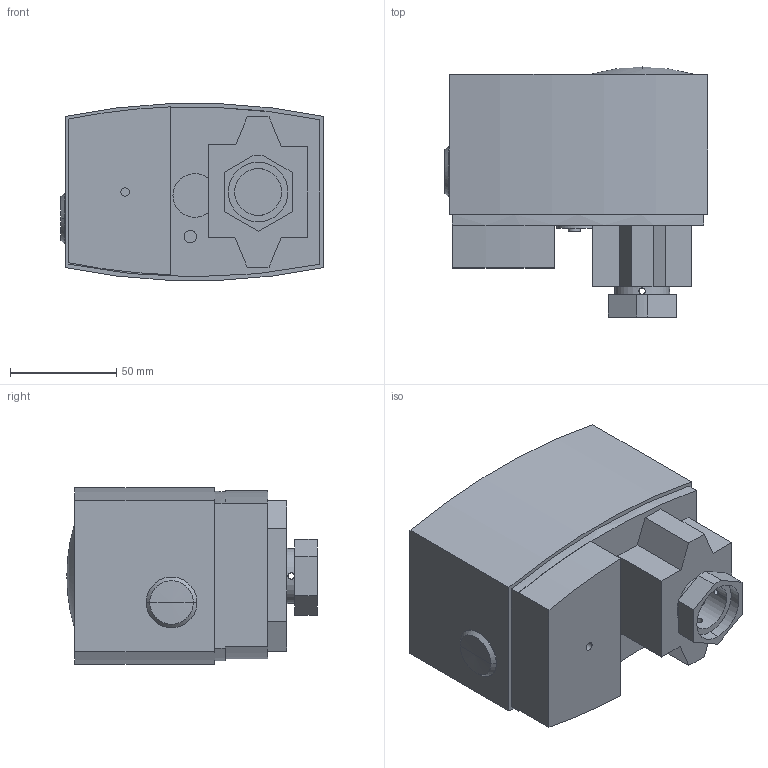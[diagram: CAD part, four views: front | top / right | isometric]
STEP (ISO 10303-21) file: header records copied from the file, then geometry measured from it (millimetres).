
FILE_DESCRIPTION((''),'2;1');
FILE_NAME('MP300-SR_ASM','2024-03-12T21:44:40',('SESA739797'),('Schneider-Electric'),'CREO PARAMETRIC BY PTC INC, 2021284','CREO PARAMETRIC BY PTC INC, 2021284','');
FILE_SCHEMA(('AP242_MANAGED_MODEL_BASED_3D_ENGINEERING_MIM_LF { 1 0 10303 442 1 1 4 }'));
Length unit declared in the file: millimetre
Products named in the file (2): MP300-SR; MP300-SR_ASM
Assembly tree (1 placements, depth 2):
  MP300-SR_ASM
    MP300-SR
Bounding box: 123.67 x 117.66 x 83 mm (x, y, z)
Volume: 828234 mm3; surface area: 66565.9 mm2
Topology: 2 solids, 2 shells, 98 faces, 253 edges, 163 vertices
Faces by surface type: plane 57, cylinder 32, cone 6, sphere 2, extrusion 1
Entity records: 3232 total; most frequent: CARTESIAN_POINT 728, ORIENTED_EDGE 498, DIRECTION 485, EDGE_CURVE 249, VECTOR 171, LINE 170, VERTEX_POINT 163, AXIS2_PLACEMENT_3D 157
